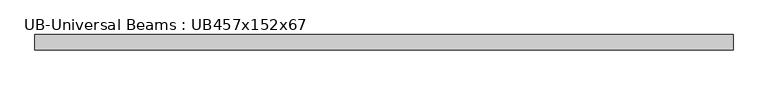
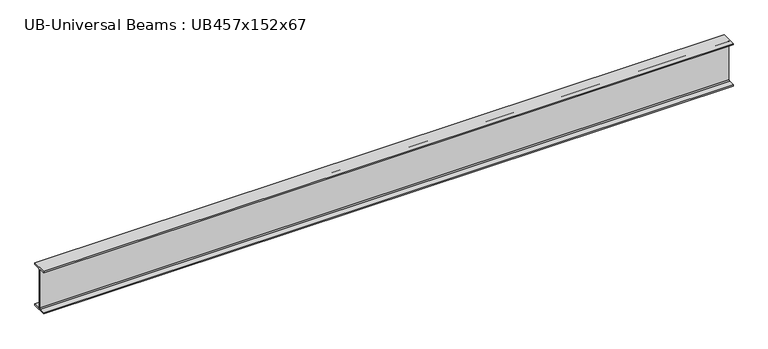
"""IFC4 building model written with IfcOpenShell, lengths in millimetres: beam geometry, UB-Universal Beams : UB457x152x67."""

from ifc_helpers import new_model, si_unit, point, frame, frame_2d, origin, place, context, project, spatial, polyline, circle_curve, trimmed, segment, composite_curve, outline, extrude, source, transform, mapped, element, save


def ub_universal_beams_ub457x152x67_9299ccfd(model_context):
    return source(origin(), model_context, "Body", "SweptSolid", [
        extrude(outline(composite_curve([segment(polyline([(76.9, -214.0), (76.9, -229.0), (-76.9, -229.0), (-76.9, -214.0), (-14.7, -214.0)]), True, "CONTINUOUS"), segment(trimmed(circle_curve(frame_2d((-14.7, -203.8)), 10.2), [point((-14.7, -214.0))], [point((-4.5, -203.8))], True, "CARTESIAN"), True, "CONTINUOUS"), segment(polyline([(-4.5, -203.8), (-4.5, 203.8)]), True, "CONTINUOUS"), segment(trimmed(circle_curve(frame_2d((-14.7, 203.8)), 10.2), [point((-4.5, 203.8))], [point((-14.7, 214.0))], True, "CARTESIAN"), True, "CONTINUOUS"), segment(polyline([(-14.7, 214.0), (-76.9, 214.0), (-76.9, 229.0), (76.9, 229.0), (76.9, 214.0), (14.7, 214.0)]), True, "CONTINUOUS"), segment(trimmed(circle_curve(frame_2d((14.7, 203.8)), 10.2), [point((14.7, 214.0))], [point((4.5, 203.8))], True, "CARTESIAN"), True, "CONTINUOUS"), segment(polyline([(4.5, 203.8), (4.5, -203.8)]), True, "CONTINUOUS"), segment(trimmed(circle_curve(frame_2d((14.7, -203.8)), 10.2), [point((4.5, -203.8))], [point((14.7, -214.0))], True, "CARTESIAN"), True, "CONTINUOUS"), segment(polyline([(14.7, -214.0), (76.9, -214.0)]), True, "CONTINUOUS")], self_intersect=False)), frame((-3400.0, 0.0, 0.0), z_axis=(1.0, 0.0, 0.0), x_axis=(0.0, 1.0, 0.0)), (0.0, 0.0, 1.0), 7012.6),
    ])


if __name__ == "__main__":
    model = new_model("IFC4")
    model_context = context("Model", 3, world=origin())
    ifc_project = project(units=[si_unit("LENGTHUNIT", "METRE", prefix="MILLI")], contexts=[model_context])
    site = spatial("IfcSite", under=ifc_project)
    building = spatial("IfcBuilding", under=site)
    placement = place(None, origin())
    ub_universal_beams_ub457x152x67_shape = ub_universal_beams_ub457x152x67_9299ccfd(model_context)
    element("IfcBeam", 1, ObjectType="UB-Universal Beams : UB457x152x67", at=placement, inside=building, context=model_context, shape_type="MappedRepresentation", body=[
        mapped(ub_universal_beams_ub457x152x67_shape, transform((0.0, 0.0, 0.0), x_axis=(1.0, 0.0, 0.0), y_axis=(0.0, 1.0, 0.0), z_axis=(0.0, 0.0, 1.0))),
    ])
    save(model, "model.ifc")
